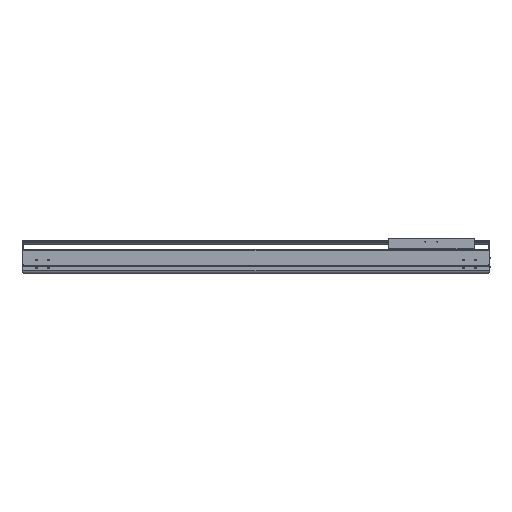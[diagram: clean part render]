
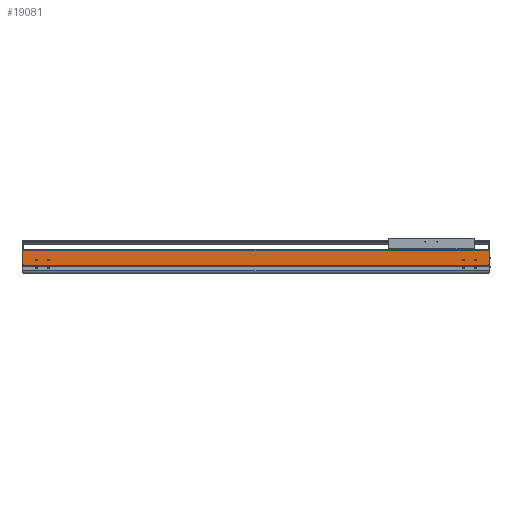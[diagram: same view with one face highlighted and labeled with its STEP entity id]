
A CAD part, top view. The second image highlights one B-rep face of the part: STEP entity #19081.
In plain terms, the highlighted planar face has unit normal (0, 0, 1).
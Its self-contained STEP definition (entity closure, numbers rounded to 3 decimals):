
#1618=DIRECTION('',(0.,-1.,0.));
#1619=VECTOR('',#1618,2.55);
#1620=CARTESIAN_POINT('',(0.,34.65,107.));
#1621=LINE('',#1620,#1619);
#2101=DIRECTION('',(1.,0.,0.));
#2102=VECTOR('',#2101,2.);
#2103=CARTESIAN_POINT('',(-1911.,34.65,107.));
#2104=LINE('',#2103,#2102);
#2105=CARTESIAN_POINT('',(-54.5,54.,107.));
#2106=DIRECTION('',(0.,0.,-1.));
#2107=DIRECTION('',(1.,0.,0.));
#2108=AXIS2_PLACEMENT_3D('',#2105,#2106,#2107);
#2110=CARTESIAN_POINT('',(-54.5,54.,107.));
#2111=DIRECTION('',(0.,0.,-1.));
#2112=DIRECTION('',(-1.,0.,0.));
#2113=AXIS2_PLACEMENT_3D('',#2110,#2111,#2112);
#2115=CARTESIAN_POINT('',(-104.5,54.,107.));
#2116=DIRECTION('',(0.,0.,-1.));
#2117=DIRECTION('',(1.,0.,0.));
#2118=AXIS2_PLACEMENT_3D('',#2115,#2116,#2117);
#2120=CARTESIAN_POINT('',(-104.5,54.,107.));
#2121=DIRECTION('',(0.,0.,-1.));
#2122=DIRECTION('',(-1.,0.,0.));
#2123=AXIS2_PLACEMENT_3D('',#2120,#2121,#2122);
#2125=CARTESIAN_POINT('',(-1854.5,54.,107.));
#2126=DIRECTION('',(0.,0.,-1.));
#2127=DIRECTION('',(1.,0.,0.));
#2128=AXIS2_PLACEMENT_3D('',#2125,#2126,#2127);
#2130=CARTESIAN_POINT('',(-1854.5,54.,107.));
#2131=DIRECTION('',(0.,0.,-1.));
#2132=DIRECTION('',(-1.,0.,0.));
#2133=AXIS2_PLACEMENT_3D('',#2130,#2131,#2132);
#2135=CARTESIAN_POINT('',(-1804.5,54.,107.));
#2136=DIRECTION('',(0.,0.,-1.));
#2137=DIRECTION('',(1.,0.,0.));
#2138=AXIS2_PLACEMENT_3D('',#2135,#2136,#2137);
#2140=CARTESIAN_POINT('',(-1804.5,54.,107.));
#2141=DIRECTION('',(0.,0.,-1.));
#2142=DIRECTION('',(-1.,0.,0.));
#2143=AXIS2_PLACEMENT_3D('',#2140,#2141,#2142);
#2145=DIRECTION('',(0.,-1.,0.));
#2146=VECTOR('',#2145,2.55);
#2147=CARTESIAN_POINT('',(-1909.,34.65,107.));
#2148=LINE('',#2147,#2146);
#2149=DIRECTION('',(0.,-1.,0.));
#2150=VECTOR('',#2149,58.85);
#2151=CARTESIAN_POINT('',(-1911.,93.5,107.));
#2152=LINE('',#2151,#2150);
#2153=DIRECTION('',(0.,1.,0.));
#2154=VECTOR('',#2153,58.85);
#2155=CARTESIAN_POINT('',(2.,34.65,107.));
#2156=LINE('',#2155,#2154);
#2157=DIRECTION('',(1.,0.,0.));
#2158=VECTOR('',#2157,1909.);
#2159=CARTESIAN_POINT('',(-1909.,32.1,107.));
#2160=LINE('',#2159,#2158);
#2265=DIRECTION('',(-1.,0.,0.));
#2266=VECTOR('',#2265,1913.);
#2267=CARTESIAN_POINT('',(2.,93.5,107.));
#2268=LINE('',#2267,#2266);
#11896=DIRECTION('',(1.,0.,0.));
#11897=VECTOR('',#11896,2.);
#11898=CARTESIAN_POINT('',(0.,34.65,107.));
#11899=LINE('',#11898,#11897);
#13146=CARTESIAN_POINT('',(-1911.,34.65,107.));
#13147=VERTEX_POINT('',#13146);
#13148=CARTESIAN_POINT('',(-1911.,93.5,107.));
#13149=VERTEX_POINT('',#13148);
#13378=CARTESIAN_POINT('',(-1909.,32.1,107.));
#13379=VERTEX_POINT('',#13378);
#14003=CARTESIAN_POINT('',(0.,32.1,107.));
#14004=VERTEX_POINT('',#14003);
#14005=CARTESIAN_POINT('',(-52.,54.,107.));
#14006=CARTESIAN_POINT('',(-57.,54.,107.));
#14007=VERTEX_POINT('',#14005);
#14008=VERTEX_POINT('',#14006);
#14009=CARTESIAN_POINT('',(-102.,54.,107.));
#14010=CARTESIAN_POINT('',(-107.,54.,107.));
#14011=VERTEX_POINT('',#14009);
#14012=VERTEX_POINT('',#14010);
#14013=CARTESIAN_POINT('',(-1852.,54.,107.));
#14014=CARTESIAN_POINT('',(-1857.,54.,107.));
#14015=VERTEX_POINT('',#14013);
#14016=VERTEX_POINT('',#14014);
#14017=CARTESIAN_POINT('',(-1802.,54.,107.));
#14018=CARTESIAN_POINT('',(-1807.,54.,107.));
#14019=VERTEX_POINT('',#14017);
#14020=VERTEX_POINT('',#14018);
#15271=CARTESIAN_POINT('',(2.,34.65,107.));
#15272=VERTEX_POINT('',#15271);
#15273=CARTESIAN_POINT('',(2.,93.5,107.));
#15274=VERTEX_POINT('',#15273);
#15617=CARTESIAN_POINT('',(0.,34.65,107.));
#15618=VERTEX_POINT('',#15617);
#15805=CARTESIAN_POINT('',(-1909.,34.65,107.));
#15806=VERTEX_POINT('',#15805);
#19039=CARTESIAN_POINT('',(-954.5,62.8,107.));
#19040=DIRECTION('',(0.,0.,1.));
#19041=DIRECTION('',(0.,-1.,0.));
#19042=AXIS2_PLACEMENT_3D('',#19039,#19040,#19041);
#19043=PLANE('',#19042);
#19044=ORIENTED_EDGE('',*,*,#17291,.F.);
#19045=ORIENTED_EDGE('',*,*,#19034,.F.);
#19046=ORIENTED_EDGE('',*,*,#17920,.F.);
#19048=ORIENTED_EDGE('',*,*,#19047,.F.);
#19049=ORIENTED_EDGE('',*,*,#17030,.F.);
#19051=ORIENTED_EDGE('',*,*,#19050,.F.);
#19052=ORIENTED_EDGE('',*,*,#18641,.T.);
#19054=ORIENTED_EDGE('',*,*,#19053,.F.);
#19055=EDGE_LOOP('',(#19044,#19045,#19046,#19048,#19049,#19051,#19052,#19054));
#19056=FACE_OUTER_BOUND('',#19055,.F.);
#19058=ORIENTED_EDGE('',*,*,#19057,.F.);
#19060=ORIENTED_EDGE('',*,*,#19059,.F.);
#19061=EDGE_LOOP('',(#19058,#19060));
#19062=FACE_BOUND('',#19061,.F.);
#19064=ORIENTED_EDGE('',*,*,#19063,.F.);
#19066=ORIENTED_EDGE('',*,*,#19065,.F.);
#19067=EDGE_LOOP('',(#19064,#19066));
#19068=FACE_BOUND('',#19067,.F.);
#19070=ORIENTED_EDGE('',*,*,#19069,.F.);
#19072=ORIENTED_EDGE('',*,*,#19071,.F.);
#19073=EDGE_LOOP('',(#19070,#19072));
#19074=FACE_BOUND('',#19073,.F.);
#19076=ORIENTED_EDGE('',*,*,#19075,.F.);
#19078=ORIENTED_EDGE('',*,*,#19077,.F.);
#19079=EDGE_LOOP('',(#19076,#19078));
#19080=FACE_BOUND('',#19079,.F.);
#19081=ADVANCED_FACE('',(#19056,#19062,#19068,#19074,#19080),#19043,.T.);
#2109=CIRCLE('',#2108,2.5);
#2114=CIRCLE('',#2113,2.5);
#2119=CIRCLE('',#2118,2.5);
#2124=CIRCLE('',#2123,2.5);
#2129=CIRCLE('',#2128,2.5);
#2134=CIRCLE('',#2133,2.5);
#2139=CIRCLE('',#2138,2.5);
#2144=CIRCLE('',#2143,2.5);
#17030=EDGE_CURVE('',#15272,#15274,#2156,.T.);
#17291=EDGE_CURVE('',#15806,#13379,#2148,.T.);
#17920=EDGE_CURVE('',#13149,#13147,#2152,.T.);
#18641=EDGE_CURVE('',#15618,#14004,#1621,.T.);
#19034=EDGE_CURVE('',#13147,#15806,#2104,.T.);
#19047=EDGE_CURVE('',#15274,#13149,#2268,.T.);
#19050=EDGE_CURVE('',#15618,#15272,#11899,.T.);
#19053=EDGE_CURVE('',#13379,#14004,#2160,.T.);
#19057=EDGE_CURVE('',#14011,#14012,#2119,.T.);
#19059=EDGE_CURVE('',#14012,#14011,#2124,.T.);
#19063=EDGE_CURVE('',#14015,#14016,#2129,.T.);
#19065=EDGE_CURVE('',#14016,#14015,#2134,.T.);
#19069=EDGE_CURVE('',#14019,#14020,#2139,.T.);
#19071=EDGE_CURVE('',#14020,#14019,#2144,.T.);
#19075=EDGE_CURVE('',#14007,#14008,#2109,.T.);
#19077=EDGE_CURVE('',#14008,#14007,#2114,.T.);
